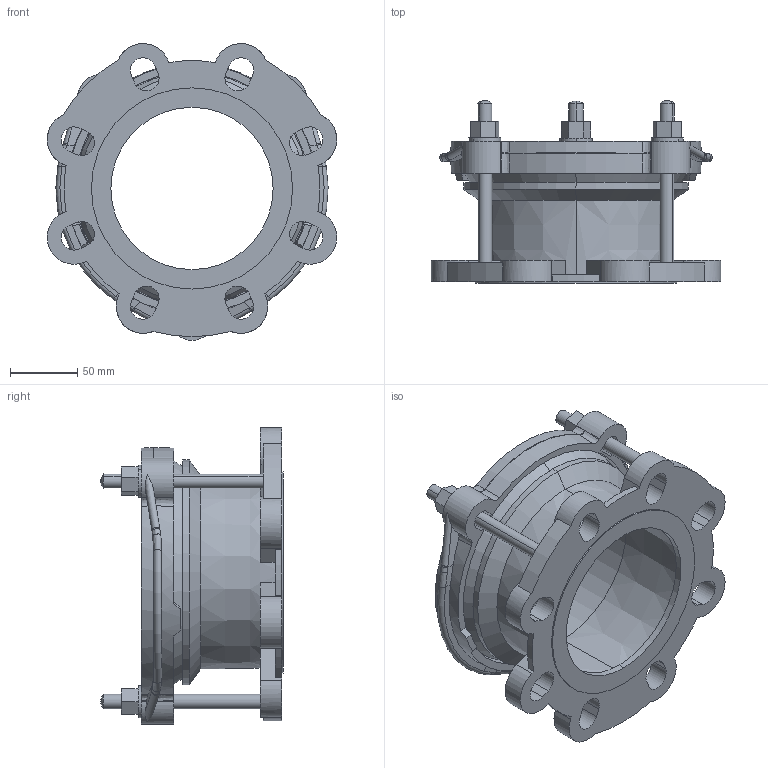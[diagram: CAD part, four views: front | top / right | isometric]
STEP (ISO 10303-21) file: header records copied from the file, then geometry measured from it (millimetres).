
FILE_DESCRIPTION((''),'2;1');
FILE_NAME('BIM_12419_14','2018-10-05T',('MReader'),(''),'CREO PARAMETRIC BY PTC INC, 2016130','CREO PARAMETRIC BY PTC INC, 2016130','');
FILE_SCHEMA(('CONFIG_CONTROL_DESIGN'));
Length unit declared in the file: millimetre
Products named in the file (1): BIM_12419_14
Bounding box: 216 x 136 x 221.25 mm (x, y, z)
Volume: 887523.5 mm3; surface area: 229908.1 mm2
Topology: 1 solids, 1 shells, 259 faces, 694 edges, 449 vertices
Faces by surface type: plane 123, cylinder 83, bspline 26, cone 18, sphere 6, torus 3
Entity records: 9231 total; most frequent: CARTESIAN_POINT 2845, ORIENTED_EDGE 1376, DIRECTION 1252, EDGE_CURVE 688, AXIS2_PLACEMENT_3D 459, VERTEX_POINT 449, VECTOR 334, LINE 334
